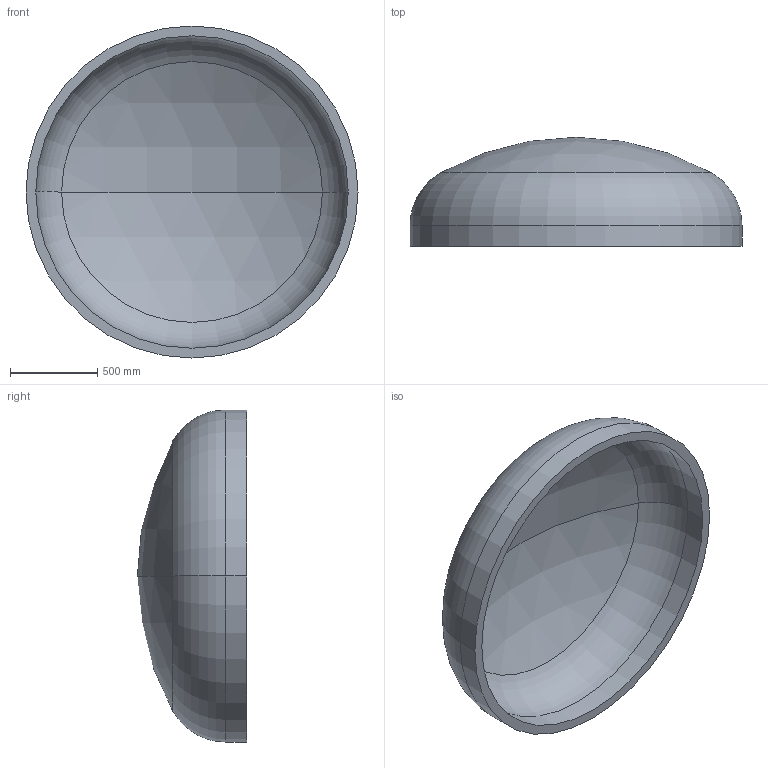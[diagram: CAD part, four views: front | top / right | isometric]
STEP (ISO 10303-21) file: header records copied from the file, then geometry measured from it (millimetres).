
FILE_DESCRIPTION (( 'STEP AP203' ), '1' );
FILE_NAME ('DIN 28013 Korbbogenform_-_Boden DIN 28013 - 1900 x 120 - I - s=56.step', '2016-07-01T13:14:21', ( '' ), ( '' ), 'SwSTEP 2.0', 'SolidWorks 2013', '' );
FILE_SCHEMA (( 'CONFIG_CONTROL_DESIGN' ));
Length unit declared in the file: millimetre
Products named in the file (1): DIN 28013 Korbbogenform_-_Boden DIN 28013 - 1900 x 120 - I - s=56
Bounding box: 1900 x 624.51 x 1900 mm (x, y, z)
Volume: 250145126.2 mm3; surface area: 9264733.3 mm2
Topology: 1 solids, 1 shells, 13 faces, 24 edges, 14 vertices
Faces by surface type: torus 4, cylinder 4, sphere 4, plane 1
Entity records: 407 total; most frequent: DIRECTION 72, CARTESIAN_POINT 52, ORIENTED_EDGE 48, AXIS2_PLACEMENT_3D 34, EDGE_CURVE 24, CIRCLE 20, EDGE_LOOP 14, VERTEX_POINT 14
